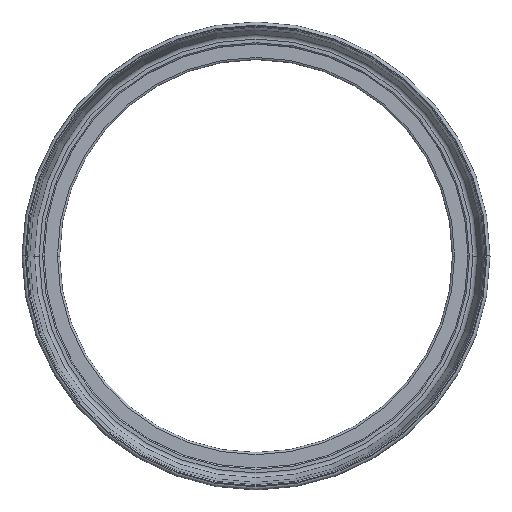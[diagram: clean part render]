
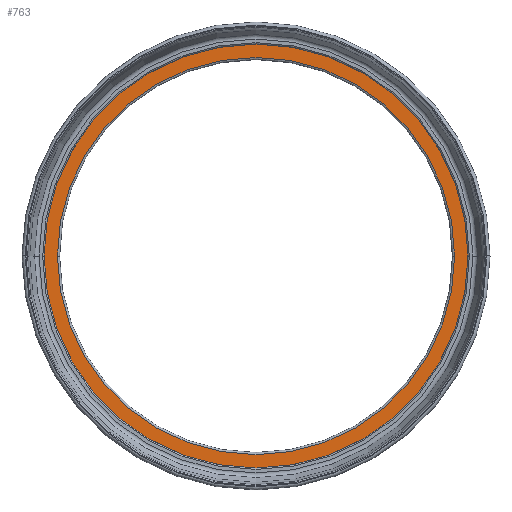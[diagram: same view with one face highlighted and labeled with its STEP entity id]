
A CAD part, top view. The second image highlights one B-rep face of the part: STEP entity #763.
In plain terms, the highlighted planar face has unit normal (0, 0, 1).
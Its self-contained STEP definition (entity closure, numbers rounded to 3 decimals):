
#158=CARTESIAN_POINT('',(0.,0.,0.));
#159=DIRECTION('',(0.,0.,1.));
#160=DIRECTION('',(-1.,0.,0.));
#161=AXIS2_PLACEMENT_3D('',#158,#159,#160);
#163=CARTESIAN_POINT('',(0.,0.,0.));
#164=DIRECTION('',(0.,0.,1.));
#165=DIRECTION('',(1.,0.,0.));
#166=AXIS2_PLACEMENT_3D('',#163,#164,#165);
#168=CARTESIAN_POINT('',(0.,0.,0.));
#169=DIRECTION('',(0.,0.,-1.));
#170=DIRECTION('',(1.,0.,0.));
#171=AXIS2_PLACEMENT_3D('',#168,#169,#170);
#173=CARTESIAN_POINT('',(0.,0.,0.));
#174=DIRECTION('',(0.,0.,-1.));
#175=DIRECTION('',(-1.,0.,0.));
#176=AXIS2_PLACEMENT_3D('',#173,#174,#175);
#524=CARTESIAN_POINT('',(-99.5,0.,0.));
#525=CARTESIAN_POINT('',(99.5,0.,0.));
#526=VERTEX_POINT('',#524);
#527=VERTEX_POINT('',#525);
#546=CARTESIAN_POINT('',(93.,0.,0.));
#547=CARTESIAN_POINT('',(-93.,0.,0.));
#548=VERTEX_POINT('',#546);
#549=VERTEX_POINT('',#547);
#748=CARTESIAN_POINT('',(0.,0.,0.));
#749=DIRECTION('',(0.,0.,-1.));
#750=DIRECTION('',(-1.,0.,0.));
#751=AXIS2_PLACEMENT_3D('',#748,#749,#750);
#752=PLANE('',#751);
#753=ORIENTED_EDGE('',*,*,#728,.F.);
#754=ORIENTED_EDGE('',*,*,#742,.F.);
#755=EDGE_LOOP('',(#753,#754));
#756=FACE_OUTER_BOUND('',#755,.F.);
#758=ORIENTED_EDGE('',*,*,#757,.F.);
#760=ORIENTED_EDGE('',*,*,#759,.F.);
#761=EDGE_LOOP('',(#758,#760));
#762=FACE_BOUND('',#761,.F.);
#162=CIRCLE('',#161,99.5);
#167=CIRCLE('',#166,99.5);
#172=CIRCLE('',#171,93.);
#177=CIRCLE('',#176,93.);
#728=EDGE_CURVE('',#526,#527,#162,.T.);
#742=EDGE_CURVE('',#527,#526,#167,.T.);
#757=EDGE_CURVE('',#548,#549,#172,.T.);
#759=EDGE_CURVE('',#549,#548,#177,.T.);
#763=ADVANCED_FACE('',(#756,#762),#752,.F.);
